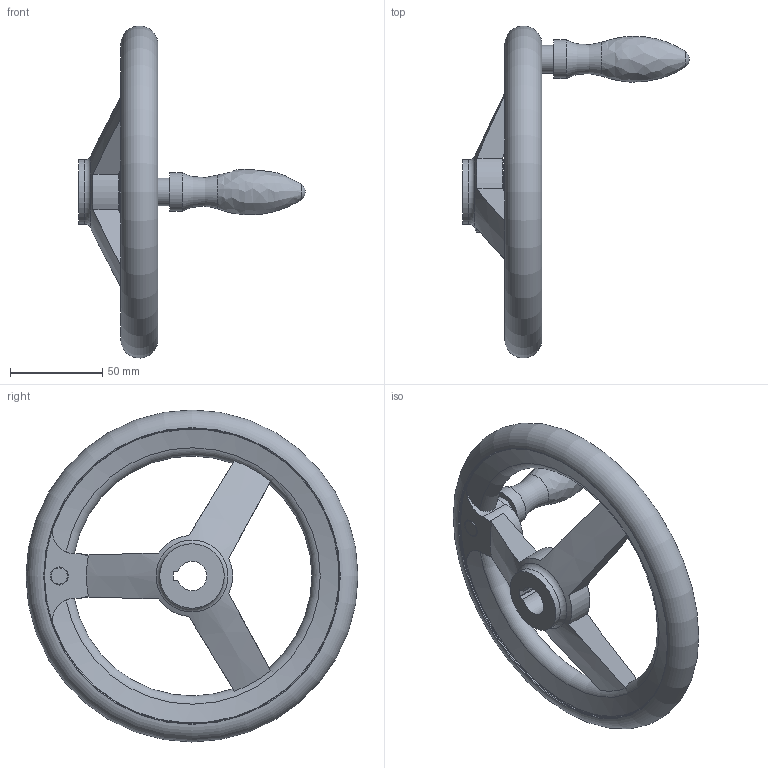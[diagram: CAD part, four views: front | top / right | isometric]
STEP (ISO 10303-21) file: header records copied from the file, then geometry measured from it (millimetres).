
FILE_DESCRIPTION( ( 'STEP AP203' ), '1' );
FILE_NAME( 'C:/Temp/Ganter_Step_05_03_2020/data/1_3/din_950/din_950_k/din_950_k_d/Handwheel DIN 950-GG-180-K16-D.stp', '2020-03-05T10:30:55', ( 'License CC BY-ND 4.0' ), ( 'CADENAS' ), ' ', 'PARTsolutions', ' ' );
FILE_SCHEMA( ( 'CONFIG_CONTROL_DESIGN' ) );
Length unit declared in the file: millimetre
Products named in the file (1): _Handwheel DIN 950-GG-180-K16-D
Bounding box: 123 x 179.98 x 179.98 mm (x, y, z)
Volume: 260434 mm3; surface area: 55628.2 mm2
Topology: 1 solids, 1 shells, 49 faces, 134 edges, 85 vertices
Faces by surface type: cylinder 15, plane 15, torus 11, cone 6, bspline 1, sphere 1
Full cylindrical faces by diameter (mm): 15 x1, 21 x1, 35 x2, 160 x2
Entity records: 1861 total; most frequent: CARTESIAN_POINT 699, DIRECTION 226, ORIENTED_EDGE 216, EDGE_CURVE 108, AXIS2_PLACEMENT_3D 102, VERTEX_POINT 81, EDGE_LOOP 75, FACE_OUTER_BOUND 64
